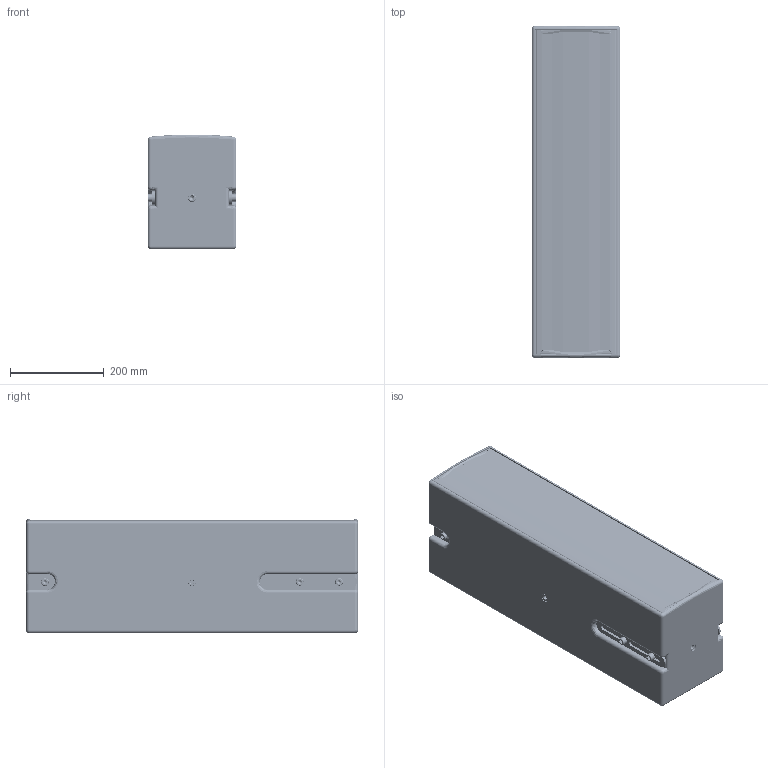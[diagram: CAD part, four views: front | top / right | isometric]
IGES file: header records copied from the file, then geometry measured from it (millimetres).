
Start section: SolidWorks IGES file using analytic representation for surfaces
Global section: file name: D:\Entwicklungen\Projekte aktuell\GL-Sub MK2\solid\GL16 Sub\Public 3D\GL16-Sub 3D.IGS; native system: SolidWorks 2009; preprocessor: SolidWorks 2009; author: Nico; date: 220728.092130; units: millimetre
Bounding box: 189 x 708 x 245 mm (x, y, z)
Surface area: 1704580.8 mm2 (no closed solid volume)
Topology: 0 solids, 0 shells, 4595 faces, 44442 edges, 44222 vertices
Faces by surface type: bspline 3007, revolution 1588
